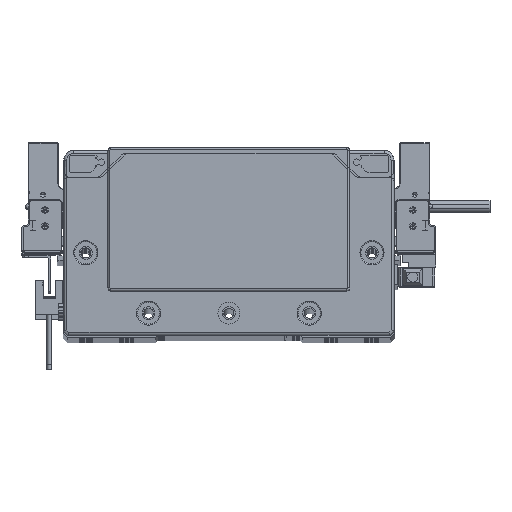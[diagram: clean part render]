
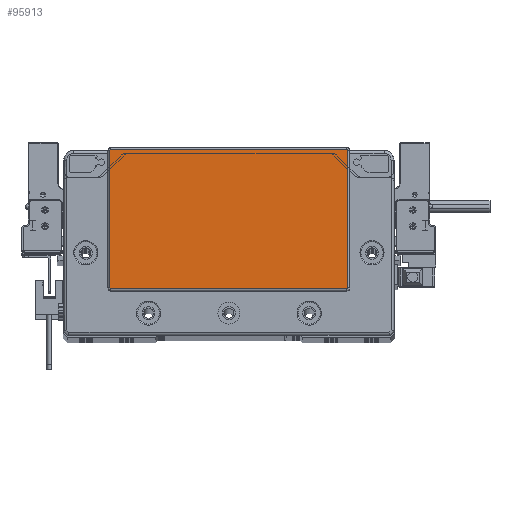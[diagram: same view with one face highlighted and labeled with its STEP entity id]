
A CAD part, top view. The second image highlights one B-rep face of the part: STEP entity #95913.
In plain terms, the highlighted planar face has unit normal (0, 0, 1) as drawn and (0, 0, -1) by its records, which use the part's own axes.
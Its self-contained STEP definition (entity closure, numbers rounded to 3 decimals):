
#1219 = AXIS2_PLACEMENT_3D ( 'NONE', #62088, #16642, #53095 ) ;
#1726 = EDGE_CURVE ( 'NONE', #71329, #41287, #96732, .T. ) ;
#1855 = ORIENTED_EDGE ( 'NONE', *, *, #17612, .T. ) ;
#5879 = DIRECTION ( 'NONE',  ( 0., -1., 0. ) ) ;
#7850 = CIRCLE ( 'NONE', #32711, 0.5 ) ;
#10468 = ORIENTED_EDGE ( 'NONE', *, *, #15404, .T. ) ;
#11043 = EDGE_CURVE ( 'NONE', #65248, #45894, #71255, .T. ) ;
#12479 = CIRCLE ( 'NONE', #83102, 0.5 ) ;
#12908 = VERTEX_POINT ( 'NONE', #64396 ) ;
#14390 = AXIS2_PLACEMENT_3D ( 'NONE', #98324, #16457, #86390 ) ;
#14596 = LINE ( 'NONE', #68993, #71760 ) ;
#15404 = EDGE_CURVE ( 'NONE', #41287, #65248, #27787, .T. ) ;
#16457 = DIRECTION ( 'NONE',  ( 0., 0., -1. ) ) ;
#16642 = DIRECTION ( 'NONE',  ( 0., 0., -1. ) ) ;
#17612 = EDGE_CURVE ( 'NONE', #45894, #37152, #81374, .T. ) ;
#17863 = CARTESIAN_POINT ( 'NONE',  ( 59.25, -23.3, -2. ) ) ;
#18201 = ORIENTED_EDGE ( 'NONE', *, *, #11043, .T. ) ;
#19203 = CARTESIAN_POINT ( 'NONE',  ( -58.75, -23.8, -2. ) ) ;
#20655 = EDGE_CURVE ( 'NONE', #32252, #103832, #12479, .T. ) ;
#23524 = DIRECTION ( 'NONE',  ( -1., 0., 0. ) ) ;
#24856 = ORIENTED_EDGE ( 'NONE', *, *, #46969, .T. ) ;
#25599 = CARTESIAN_POINT ( 'NONE',  ( -58.75, 45.8, -2. ) ) ;
#26999 = ORIENTED_EDGE ( 'NONE', *, *, #94487, .T. ) ;
#27787 = CIRCLE ( 'NONE', #14390, 0.5 ) ;
#28289 = CARTESIAN_POINT ( 'NONE',  ( 58.75, 45.3, -2. ) ) ;
#29809 = PLANE ( 'NONE',  #74039 ) ;
#32252 = VERTEX_POINT ( 'NONE', #108292 ) ;
#32711 = AXIS2_PLACEMENT_3D ( 'NONE', #28289, #89830, #92201 ) ;
#32845 = CARTESIAN_POINT ( 'NONE',  ( 58.75, -23.8, -2. ) ) ;
#34567 = CARTESIAN_POINT ( 'NONE',  ( 59.25, -23.3, -2. ) ) ;
#37152 = VERTEX_POINT ( 'NONE', #52671 ) ;
#38874 = CARTESIAN_POINT ( 'NONE',  ( 58.75, 45.8, -2. ) ) ;
#41287 = VERTEX_POINT ( 'NONE', #17863 ) ;
#45894 = VERTEX_POINT ( 'NONE', #87918 ) ;
#46969 = EDGE_CURVE ( 'NONE', #12908, #71329, #7850, .T. ) ;
#52671 = CARTESIAN_POINT ( 'NONE',  ( -59.25, -23.3, -2. ) ) ;
#53095 = DIRECTION ( 'NONE',  ( -1., 0., 0. ) ) ;
#55514 = CARTESIAN_POINT ( 'NONE',  ( 0., 0., -2. ) ) ;
#56781 = DIRECTION ( 'NONE',  ( 1., 0., 0. ) ) ;
#57187 = CARTESIAN_POINT ( 'NONE',  ( -58.75, 45.3, -2. ) ) ;
#58448 = ORIENTED_EDGE ( 'NONE', *, *, #1726, .T. ) ;
#62088 = CARTESIAN_POINT ( 'NONE',  ( -58.75, -23.3, -2. ) ) ;
#64396 = CARTESIAN_POINT ( 'NONE',  ( 58.75, 45.8, -2. ) ) ;
#65090 = FACE_OUTER_BOUND ( 'NONE', #107318, .T. ) ;
#65169 = LINE ( 'NONE', #38874, #115850 ) ;
#65248 = VERTEX_POINT ( 'NONE', #32845 ) ;
#66278 = DIRECTION ( 'NONE',  ( 0., 0., -1. ) ) ;
#67916 = CARTESIAN_POINT ( 'NONE',  ( 59.25, 45.3, -2. ) ) ;
#68993 = CARTESIAN_POINT ( 'NONE',  ( -59.25, 45.3, -2. ) ) ;
#71255 = LINE ( 'NONE', #19203, #108774 ) ;
#71329 = VERTEX_POINT ( 'NONE', #67916 ) ;
#71760 = VECTOR ( 'NONE', #105416, 1000. ) ;
#74039 = AXIS2_PLACEMENT_3D ( 'NONE', #55514, #66278, #84171 ) ;
#78513 = DIRECTION ( 'NONE',  ( 0., 0., -1. ) ) ;
#80962 = ORIENTED_EDGE ( 'NONE', *, *, #95207, .T. ) ;
#81374 = CIRCLE ( 'NONE', #1219, 0.5 ) ;
#83102 = AXIS2_PLACEMENT_3D ( 'NONE', #57187, #78513, #23524 ) ;
#84171 = DIRECTION ( 'NONE',  ( -1., 0., 0. ) ) ;
#86042 = ORIENTED_EDGE ( 'NONE', *, *, #20655, .T. ) ;
#86390 = DIRECTION ( 'NONE',  ( -1., 0., 0. ) ) ;
#87918 = CARTESIAN_POINT ( 'NONE',  ( -58.75, -23.8, -2. ) ) ;
#89830 = DIRECTION ( 'NONE',  ( 0., 0., -1. ) ) ;
#90337 = DIRECTION ( 'NONE',  ( -1., 0., 0. ) ) ;
#92201 = DIRECTION ( 'NONE',  ( -1., 0., 0. ) ) ;
#94487 = EDGE_CURVE ( 'NONE', #37152, #32252, #14596, .T. ) ;
#95207 = EDGE_CURVE ( 'NONE', #103832, #12908, #65169, .T. ) ;
#95913 = ADVANCED_FACE ( 'NONE', ( #65090 ), #29809, .T. ) ;
#96732 = LINE ( 'NONE', #34567, #113214 ) ;
#98324 = CARTESIAN_POINT ( 'NONE',  ( 58.75, -23.3, -2. ) ) ;
#103832 = VERTEX_POINT ( 'NONE', #25599 ) ;
#105416 = DIRECTION ( 'NONE',  ( 0., 1., 0. ) ) ;
#107318 = EDGE_LOOP ( 'NONE', ( #58448, #10468, #18201, #1855, #26999, #86042, #80962, #24856 ) ) ;
#108292 = CARTESIAN_POINT ( 'NONE',  ( -59.25, 45.3, -2. ) ) ;
#108774 = VECTOR ( 'NONE', #90337, 1000. ) ;
#113214 = VECTOR ( 'NONE', #5879, 1000. ) ;
#115850 = VECTOR ( 'NONE', #56781, 1000. ) ;
